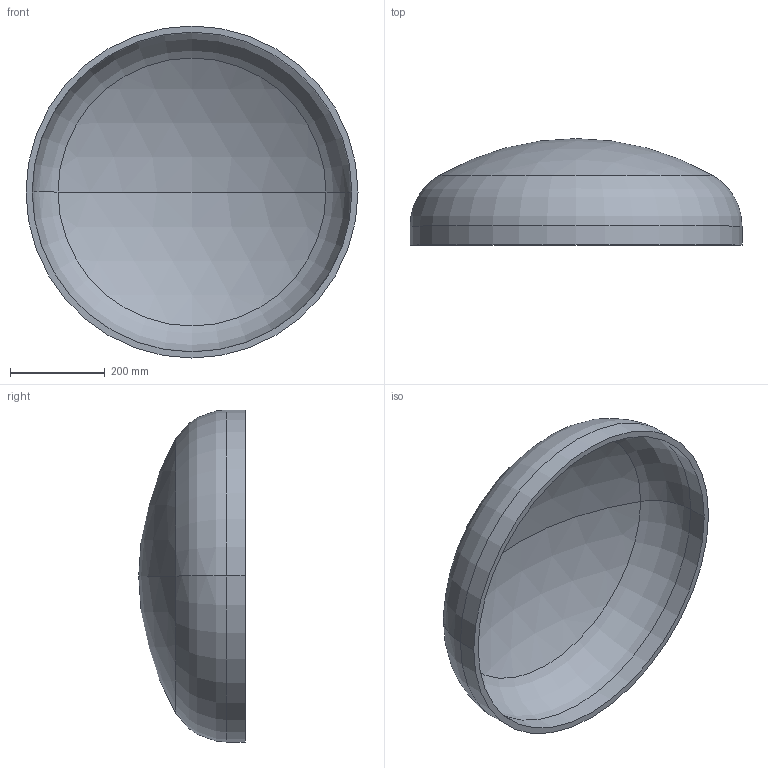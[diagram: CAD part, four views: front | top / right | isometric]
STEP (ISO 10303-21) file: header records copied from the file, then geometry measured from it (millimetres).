
FILE_DESCRIPTION (( 'STEP AP203' ), '1' );
FILE_NAME ('DIN 28013 Korbbogenform_-_Boden DIN 28013 - 700 x 40 - I - s=13.step', '2016-07-01T08:04:25', ( '' ), ( '' ), 'SwSTEP 2.0', 'SolidWorks 2013', '' );
FILE_SCHEMA (( 'CONFIG_CONTROL_DESIGN' ));
Length unit declared in the file: millimetre
Products named in the file (1): DIN 28013 Korbbogenform_-_Boden DIN 28013 - 700 x 40 - I - s=13
Bounding box: 700 x 224.45 x 700 mm (x, y, z)
Volume: 7911210 mm3; surface area: 1245520.4 mm2
Topology: 1 solids, 1 shells, 13 faces, 24 edges, 14 vertices
Faces by surface type: torus 4, cylinder 4, sphere 4, plane 1
Entity records: 407 total; most frequent: DIRECTION 72, CARTESIAN_POINT 52, ORIENTED_EDGE 48, AXIS2_PLACEMENT_3D 34, EDGE_CURVE 24, CIRCLE 20, EDGE_LOOP 14, VERTEX_POINT 14
